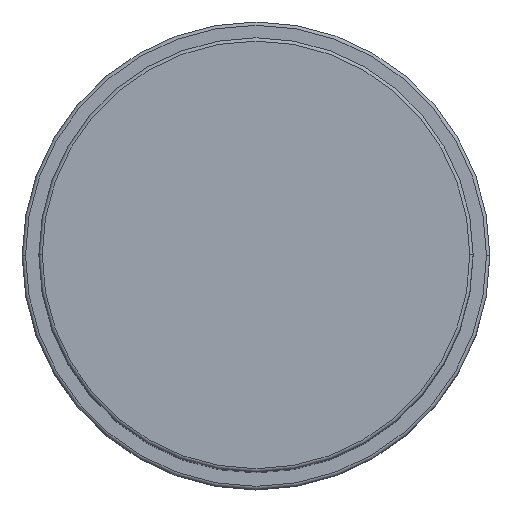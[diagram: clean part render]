
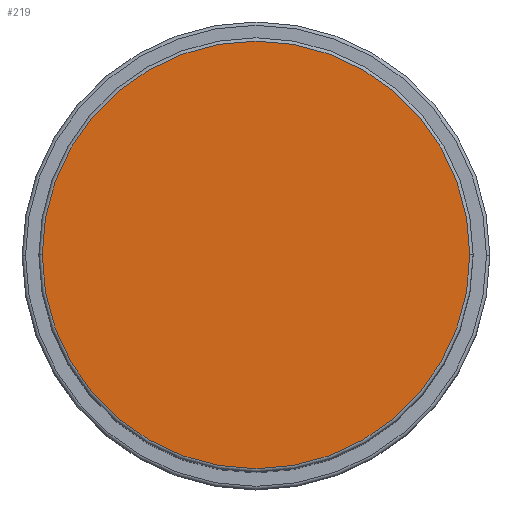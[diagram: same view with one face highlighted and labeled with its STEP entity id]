
A CAD part, top view. The second image highlights one B-rep face of the part: STEP entity #219.
In plain terms, the highlighted planar face has unit normal (0, 0, 1).
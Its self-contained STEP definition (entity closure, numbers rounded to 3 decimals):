
#112 = ORIENTED_EDGE ( 'NONE', *, *, #322, .T. ) ;
#219 = ADVANCED_FACE ( 'NONE', ( #1465 ), #1604, .T. ) ;
#310 = EDGE_CURVE ( 'NONE', #1715, #1076, #334, .T. ) ;
#322 = EDGE_CURVE ( 'NONE', #1076, #1715, #942, .T. ) ;
#334 = CIRCLE ( 'NONE', #2049, 32. ) ;
#363 = DIRECTION ( 'NONE',  ( 1., 0., 0. ) ) ;
#454 = EDGE_LOOP ( 'NONE', ( #112, #716 ) ) ;
#561 = CARTESIAN_POINT ( 'NONE',  ( 0., 0., 107. ) ) ;
#567 = AXIS2_PLACEMENT_3D ( 'NONE', #561, #1352, #1981 ) ;
#716 = ORIENTED_EDGE ( 'NONE', *, *, #310, .T. ) ;
#731 = DIRECTION ( 'NONE',  ( 1., 0., 0. ) ) ;
#880 = CARTESIAN_POINT ( 'NONE',  ( 0., 0., 107. ) ) ;
#922 = AXIS2_PLACEMENT_3D ( 'NONE', #976, #1140, #363 ) ;
#942 = CIRCLE ( 'NONE', #567, 32. ) ;
#976 = CARTESIAN_POINT ( 'NONE',  ( 0., 0., 107. ) ) ;
#1076 = VERTEX_POINT ( 'NONE', #1375 ) ;
#1140 = DIRECTION ( 'NONE',  ( 0., 0., 1. ) ) ;
#1344 = DIRECTION ( 'NONE',  ( 0., 0., 1. ) ) ;
#1352 = DIRECTION ( 'NONE',  ( 0., 0., 1. ) ) ;
#1375 = CARTESIAN_POINT ( 'NONE',  ( 32., 0., 107. ) ) ;
#1429 = CARTESIAN_POINT ( 'NONE',  ( -32., 0., 107. ) ) ;
#1465 = FACE_OUTER_BOUND ( 'NONE', #454, .T. ) ;
#1604 = PLANE ( 'NONE',  #922 ) ;
#1715 = VERTEX_POINT ( 'NONE', #1429 ) ;
#1981 = DIRECTION ( 'NONE',  ( 1., 0., 0. ) ) ;
#2049 = AXIS2_PLACEMENT_3D ( 'NONE', #880, #1344, #731 ) ;
